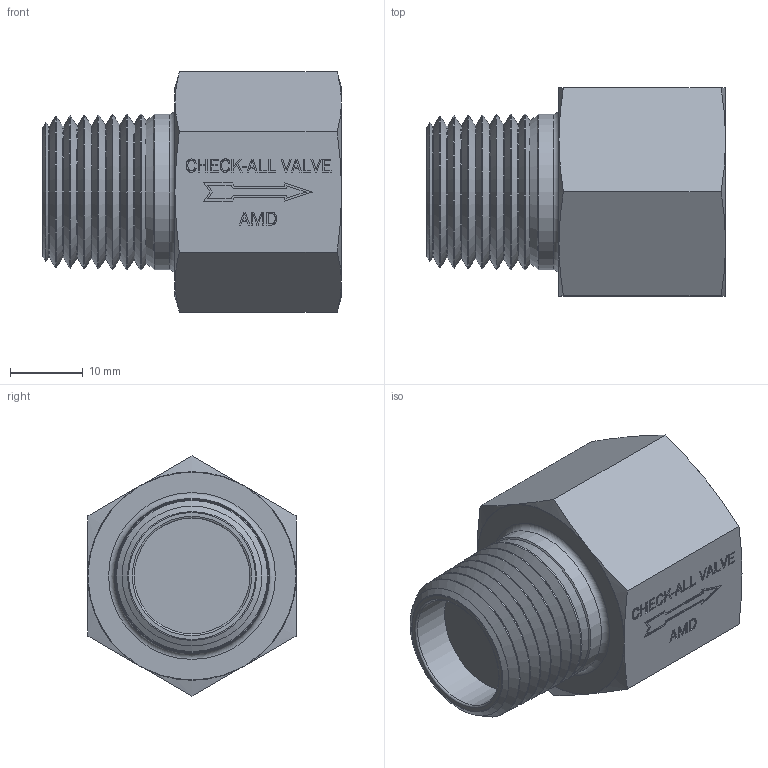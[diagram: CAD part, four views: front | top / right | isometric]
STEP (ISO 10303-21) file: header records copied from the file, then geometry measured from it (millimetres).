
FILE_DESCRIPTION(/* description */ ('Unknown'),/* implementation_level */ '2;1');
FILE_NAME(/* name */ 'AMDXXOR.500XX-WEB',/* time_stamp */ '2022-10-03T14:30:59-05:00',/* author */ ('Unknown'),/* organization */ ('Unknown'),/* preprocessor_version */ 'ST-DEVELOPER v18.102',/* originating_system */ 'Solid Edge',/* authorisation */ 'Unknown');
FILE_SCHEMA (('AUTOMOTIVE_DESIGN {1 0 10303 214 3 1 1}'));
Length unit declared in the file: inch
Products named in the file (1): AMDXXOR.500XX-WEB
Bounding box: 41.05 x 28.57 x 33 mm (x, y, z)
Volume: 16996.9 mm3; surface area: 7492.2 mm2
Topology: 1 solids, 1 shells, 323 faces, 798 edges, 505 vertices
Faces by surface type: plane 196, cone 69, cylinder 36, torus 16, bspline 6
Full cylindrical faces by diameter (mm): 8.839 x1, 12.192 x1, 15.875 x1, 18.265 x6, 21.336 x3
Entity records: 11281 total; most frequent: CARTESIAN_POINT 2232, ORIENTED_EDGE 1404, DIRECTION 1196, EDGE_CURVE 702, VERTEX_POINT 482, EDGE_LOOP 424, FACE_BOUND 424, AXIS2_PLACEMENT_3D 420
